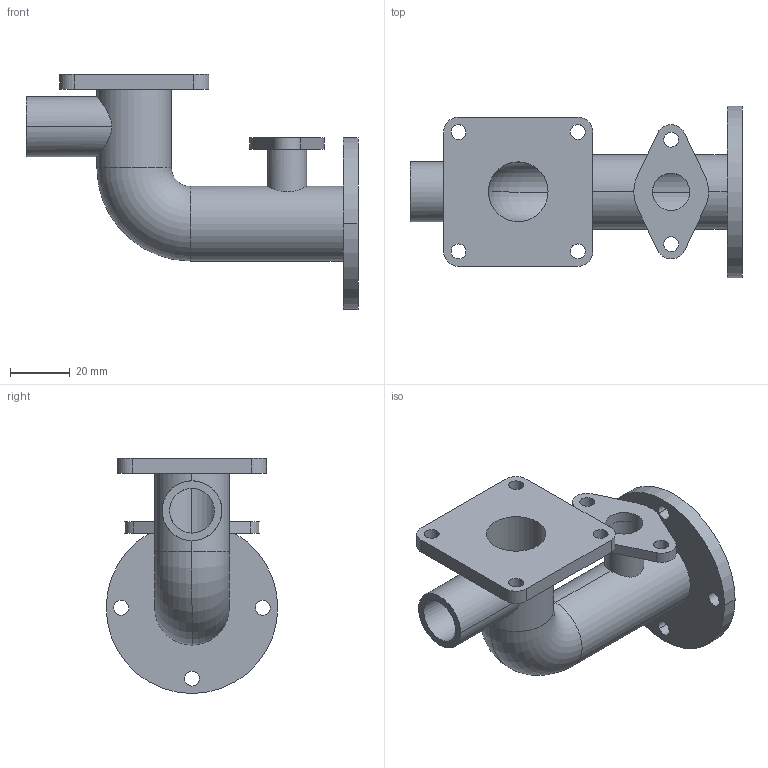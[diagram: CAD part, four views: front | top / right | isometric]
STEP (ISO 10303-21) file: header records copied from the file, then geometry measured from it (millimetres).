
FILE_DESCRIPTION(('CATIA V5 STEP Exchange'),'2;1');
FILE_NAME('C:\Users\Cata\Desktop\1.stp','2023-12-20T18:15:25+00:00',('none'),('none'),'CATIA Version 5 Release 20 GA (IN-10)','CATIA V5 STEP AP203','none');
FILE_SCHEMA(('CONFIG_CONTROL_DESIGN'));
Length unit declared in the file: millimetre
Products named in the file (1): Part1
Bounding box: 111.25 x 57.5 x 78.75 mm (x, y, z)
Volume: 45420 mm3; surface area: 31754.2 mm2
Topology: 1 solids, 1 shells, 65 faces, 176 edges, 114 vertices
Faces by surface type: cylinder 46, plane 15, torus 4
Entity records: 2154 total; most frequent: CARTESIAN_POINT 526, ORIENTED_EDGE 352, DIRECTION 256, EDGE_CURVE 176, AXIS2_PLACEMENT_3D 136, VERTEX_POINT 114, EDGE_LOOP 92, CIRCLE 88
